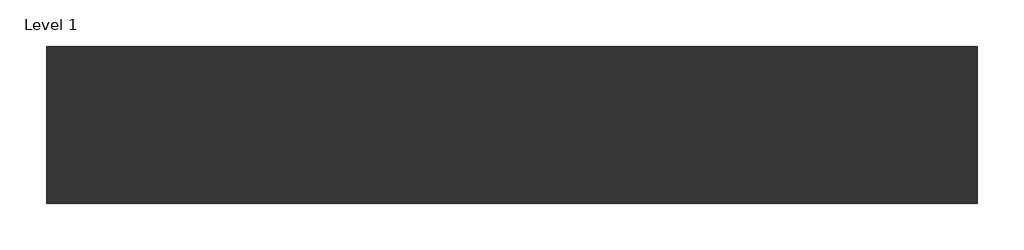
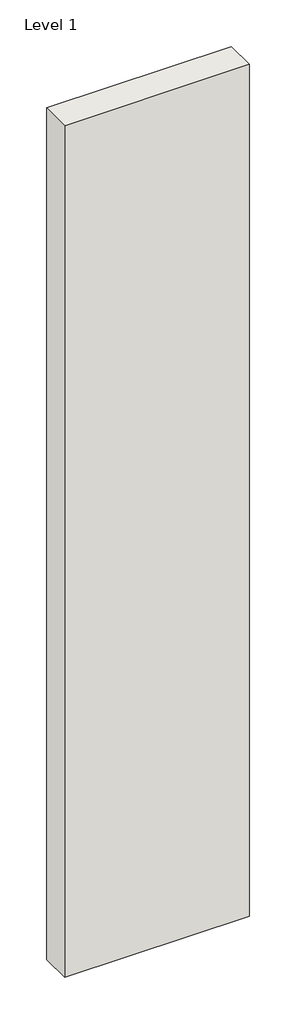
# One storey: 1 wall.
"""IFC4 building model written with IfcOpenShell, lengths in millimetres."""

from ifc_helpers import new_model, si_unit, origin, origin_with_axes, place, context, project, spatial, polyline, outline, extrude, element, save

model = new_model("IFC4")

# Units and contexts
model_context = context("Model", 3, world=origin())
ifc_project = project(units=[si_unit("LENGTHUNIT", "METRE", prefix="MILLI")], contexts=[model_context])

# Site, building, storey
site = spatial("IfcSite", under=ifc_project)
building = spatial("IfcBuilding", under=site)
storey = spatial("IfcBuildingStorey", under=building, Name="Level 1", Elevation=0.0)

# Wall
placement = place(None, origin())
element("IfcWall", 1, ObjectType="Tabique Doble – Placo® 203(70) 2xBA13 + 70LM + BA13 + 70LM + 2xBA13 c/400 - ≥ 59,1 dBA", at=placement, inside=storey, context=model_context, shape_type="SweptSolid", body=[
    extrude(outline(polyline([(-27296.4711674, -82605.3970389), (-28496.4711674, -82605.3970389), (-28496.4711674, -82402.8970389), (-27296.4711674, -82402.8970389), (-27296.4711674, -82605.3970389)])), origin_with_axes(), (0.0, 0.0, 1.0), 5850.0),
])

save(model, "model.ifc")
